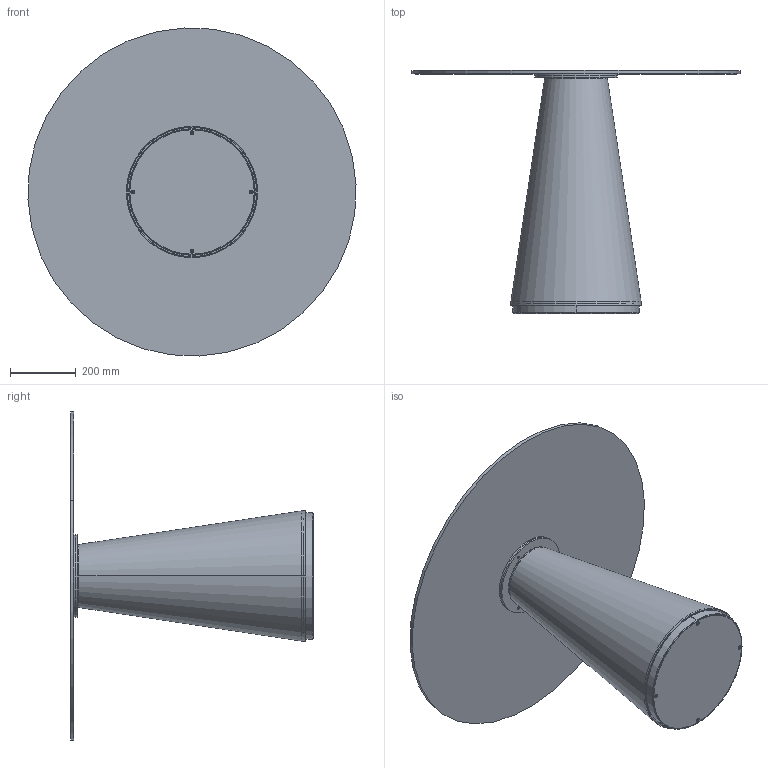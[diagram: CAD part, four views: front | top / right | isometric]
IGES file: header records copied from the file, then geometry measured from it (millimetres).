
Start section: SolidWorks IGES file using analytic representation for surfaces
Global section: file name: Y:\eforma\TECNICO\SOLIDWORKS\E-FORMA\5-TAVOLINI BISTRO\TED\02 parts\TE30G.IGS; native system: SolidWorks 2022; preprocessor: SolidWorks 2022; author: eforma.tech; date: 240808.095043; units: millimetre
Bounding box: 999.01 x 739.5 x 999.01 mm (x, y, z)
Volume: 9532942.3 mm3; surface area: 3510388.8 mm2
Topology: 15 solids, 15 shells, 370 faces, 781 edges, 434 vertices
Faces by surface type: revolution 193, plane 177
